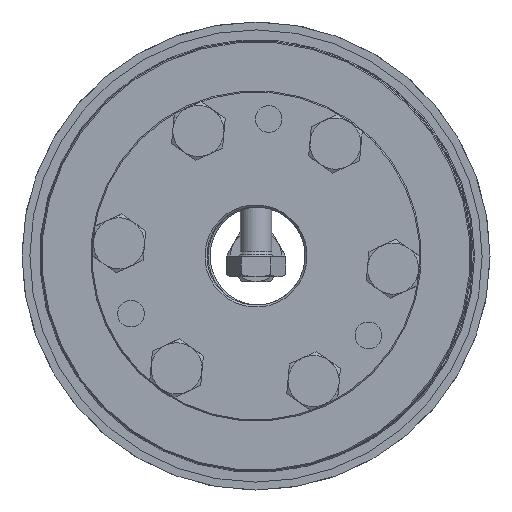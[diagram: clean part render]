
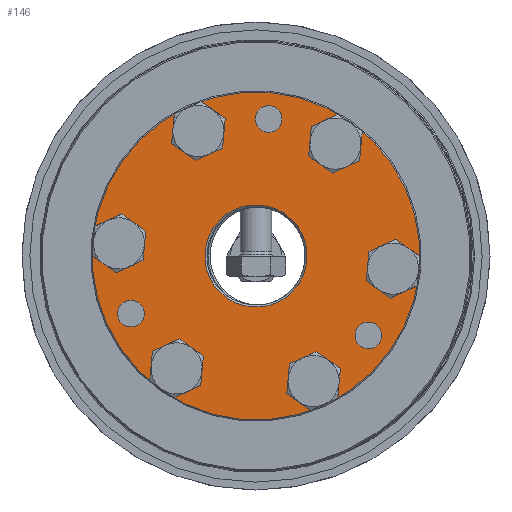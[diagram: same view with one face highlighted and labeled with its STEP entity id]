
A CAD part, left-side view. The second image highlights one B-rep face of the part: STEP entity #146.
In plain terms, the highlighted planar face has unit normal (-1, 0, 0).
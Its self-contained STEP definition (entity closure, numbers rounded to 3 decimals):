
#146 = ADVANCED_FACE( 'NONE', ( #259, #260, #261, #262, #263, #264, #265, #266, #267, #268, #269 ), #270, .F. );
#259 = FACE_OUTER_BOUND( '', #441, .T. );
#260 = FACE_BOUND( '', #442, .T. );
#261 = FACE_BOUND( '', #443, .T. );
#262 = FACE_BOUND( '', #444, .T. );
#263 = FACE_BOUND( '', #445, .T. );
#264 = FACE_BOUND( '', #446, .T. );
#265 = FACE_BOUND( '', #447, .T. );
#266 = FACE_BOUND( '', #448, .T. );
#267 = FACE_BOUND( '', #449, .T. );
#268 = FACE_BOUND( '', #450, .T. );
#269 = FACE_BOUND( '', #451, .T. );
#270 = PLANE( '', #452 );
#441 = EDGE_LOOP( '', ( #804 ) );
#442 = EDGE_LOOP( '', ( #805 ) );
#443 = EDGE_LOOP( '', ( #806 ) );
#444 = EDGE_LOOP( '', ( #807 ) );
#445 = EDGE_LOOP( '', ( #808 ) );
#446 = EDGE_LOOP( '', ( #809 ) );
#447 = EDGE_LOOP( '', ( #810 ) );
#448 = EDGE_LOOP( '', ( #811 ) );
#449 = EDGE_LOOP( '', ( #812 ) );
#450 = EDGE_LOOP( '', ( #813 ) );
#451 = EDGE_LOOP( '', ( #814 ) );
#452 = AXIS2_PLACEMENT_3D( '', #815, #816, #817 );
#804 = ORIENTED_EDGE( '', *, *, #1514, .T. );
#805 = ORIENTED_EDGE( '', *, *, #1515, .T. );
#806 = ORIENTED_EDGE( '', *, *, #1516, .F. );
#807 = ORIENTED_EDGE( '', *, *, #1517, .F. );
#808 = ORIENTED_EDGE( '', *, *, #1518, .F. );
#809 = ORIENTED_EDGE( '', *, *, #1519, .F. );
#810 = ORIENTED_EDGE( '', *, *, #1520, .F. );
#811 = ORIENTED_EDGE( '', *, *, #1521, .F. );
#812 = ORIENTED_EDGE( '', *, *, #1522, .F. );
#813 = ORIENTED_EDGE( '', *, *, #1523, .F. );
#814 = ORIENTED_EDGE( '', *, *, #1524, .F. );
#815 = CARTESIAN_POINT( '', ( 0., 12.5, 0. ) );
#816 = DIRECTION( '', ( 1., 0., 0. ) );
#817 = DIRECTION( '', ( 0., 1., 0. ) );
#1514 = EDGE_CURVE( 'NONE', #2136, #2136, #2137, .T. );
#1515 = EDGE_CURVE( 'NONE', #2138, #2138, #2139, .T. );
#1516 = EDGE_CURVE( 'NONE', #2140, #2140, #2141, .T. );
#1517 = EDGE_CURVE( 'NONE', #2142, #2142, #2143, .T. );
#1518 = EDGE_CURVE( 'NONE', #2144, #2144, #2145, .T. );
#1519 = EDGE_CURVE( 'NONE', #2146, #2146, #2147, .T. );
#1520 = EDGE_CURVE( 'NONE', #2148, #2148, #2149, .T. );
#1521 = EDGE_CURVE( 'NONE', #2150, #2150, #2151, .T. );
#1522 = EDGE_CURVE( 'NONE', #2152, #2152, #2153, .T. );
#1523 = EDGE_CURVE( 'NONE', #2154, #2154, #2155, .T. );
#1524 = EDGE_CURVE( 'NONE', #2156, #2156, #2157, .T. );
#2136 = VERTEX_POINT( '', #3370 );
#2137 = CIRCLE( '', #3371, 41.7 );
#2138 = VERTEX_POINT( '', #3372 );
#2139 = CIRCLE( '', #3373, 13. );
#2140 = VERTEX_POINT( '', #3374 );
#2141 = CIRCLE( '', #3375, 3.4 );
#2142 = VERTEX_POINT( '', #3376 );
#2143 = CIRCLE( '', #3377, 4.25 );
#2144 = VERTEX_POINT( '', #3378 );
#2145 = CIRCLE( '', #3379, 4.25 );
#2146 = VERTEX_POINT( '', #3380 );
#2147 = CIRCLE( '', #3381, 4.25 );
#2148 = VERTEX_POINT( '', #3382 );
#2149 = CIRCLE( '', #3383, 4.25 );
#2150 = VERTEX_POINT( '', #3384 );
#2151 = CIRCLE( '', #3385, 4.25 );
#2152 = VERTEX_POINT( '', #3386 );
#2153 = CIRCLE( '', #3387, 4.25 );
#2154 = VERTEX_POINT( '', #3388 );
#2155 = CIRCLE( '', #3389, 3.4 );
#2156 = VERTEX_POINT( '', #3390 );
#2157 = CIRCLE( '', #3391, 3.4 );
#3370 = CARTESIAN_POINT( '', ( 0., 0., -41.7 ) );
#3371 = AXIS2_PLACEMENT_3D( '', #3735, #3736, #3737 );
#3372 = CARTESIAN_POINT( '', ( 0., 0., -13. ) );
#3373 = AXIS2_PLACEMENT_3D( '', #3738, #3739, #3740 );
#3374 = CARTESIAN_POINT( '', ( 0., 17.5, -26.911 ) );
#3375 = AXIS2_PLACEMENT_3D( '', #3741, #3742, #3743 );
#3376 = CARTESIAN_POINT( '', ( 0., 0., 39.25 ) );
#3377 = AXIS2_PLACEMENT_3D( '', #3744, #3745, #3746 );
#3378 = CARTESIAN_POINT( '', ( 0., 30.311, 21.75 ) );
#3379 = AXIS2_PLACEMENT_3D( '', #3747, #3748, #3749 );
#3380 = CARTESIAN_POINT( '', ( 0., 30.311, -13.25 ) );
#3381 = AXIS2_PLACEMENT_3D( '', #3750, #3751, #3752 );
#3382 = CARTESIAN_POINT( '', ( 0., 0., -30.75 ) );
#3383 = AXIS2_PLACEMENT_3D( '', #3753, #3754, #3755 );
#3384 = CARTESIAN_POINT( '', ( 0., -30.311, -13.25 ) );
#3385 = AXIS2_PLACEMENT_3D( '', #3756, #3757, #3758 );
#3386 = CARTESIAN_POINT( '', ( 0., -30.311, 21.75 ) );
#3387 = AXIS2_PLACEMENT_3D( '', #3759, #3760, #3761 );
#3388 = CARTESIAN_POINT( '', ( 0., 17.5, 33.711 ) );
#3389 = AXIS2_PLACEMENT_3D( '', #3762, #3763, #3764 );
#3390 = CARTESIAN_POINT( '', ( 0., -35., 3.4 ) );
#3391 = AXIS2_PLACEMENT_3D( '', #3765, #3766, #3767 );
#3735 = CARTESIAN_POINT( '', ( 0., 0., 0. ) );
#3736 = DIRECTION( '', ( -1., 0., 0. ) );
#3737 = DIRECTION( '', ( 0., 0., -1. ) );
#3738 = CARTESIAN_POINT( '', ( 0., 0., 0. ) );
#3739 = DIRECTION( '', ( 1., 0., 0. ) );
#3740 = DIRECTION( '', ( 0., 0., -1. ) );
#3741 = CARTESIAN_POINT( '', ( 0., 17.5, -30.311 ) );
#3742 = DIRECTION( '', ( -1., 0., 0. ) );
#3743 = DIRECTION( '', ( 0., 0., 1. ) );
#3744 = CARTESIAN_POINT( '', ( 0., 0., 35. ) );
#3745 = DIRECTION( '', ( -1., 0., 0. ) );
#3746 = DIRECTION( '', ( 0., 0., 1. ) );
#3747 = CARTESIAN_POINT( '', ( 0., 30.311, 17.5 ) );
#3748 = DIRECTION( '', ( -1., 0., 0. ) );
#3749 = DIRECTION( '', ( 0., 0., 1. ) );
#3750 = CARTESIAN_POINT( '', ( 0., 30.311, -17.5 ) );
#3751 = DIRECTION( '', ( -1., 0., 0. ) );
#3752 = DIRECTION( '', ( 0., 0., 1. ) );
#3753 = CARTESIAN_POINT( '', ( 0., 0., -35. ) );
#3754 = DIRECTION( '', ( -1., 0., 0. ) );
#3755 = DIRECTION( '', ( 0., 0., 1. ) );
#3756 = CARTESIAN_POINT( '', ( 0., -30.311, -17.5 ) );
#3757 = DIRECTION( '', ( -1., 0., 0. ) );
#3758 = DIRECTION( '', ( 0., 0., 1. ) );
#3759 = CARTESIAN_POINT( '', ( 0., -30.311, 17.5 ) );
#3760 = DIRECTION( '', ( -1., 0., 0. ) );
#3761 = DIRECTION( '', ( 0., 0., 1. ) );
#3762 = CARTESIAN_POINT( '', ( 0., 17.5, 30.311 ) );
#3763 = DIRECTION( '', ( -1., 0., 0. ) );
#3764 = DIRECTION( '', ( 0., 0., 1. ) );
#3765 = CARTESIAN_POINT( '', ( 0., -35., 0. ) );
#3766 = DIRECTION( '', ( -1., 0., 0. ) );
#3767 = DIRECTION( '', ( 0., 0., 1. ) );
